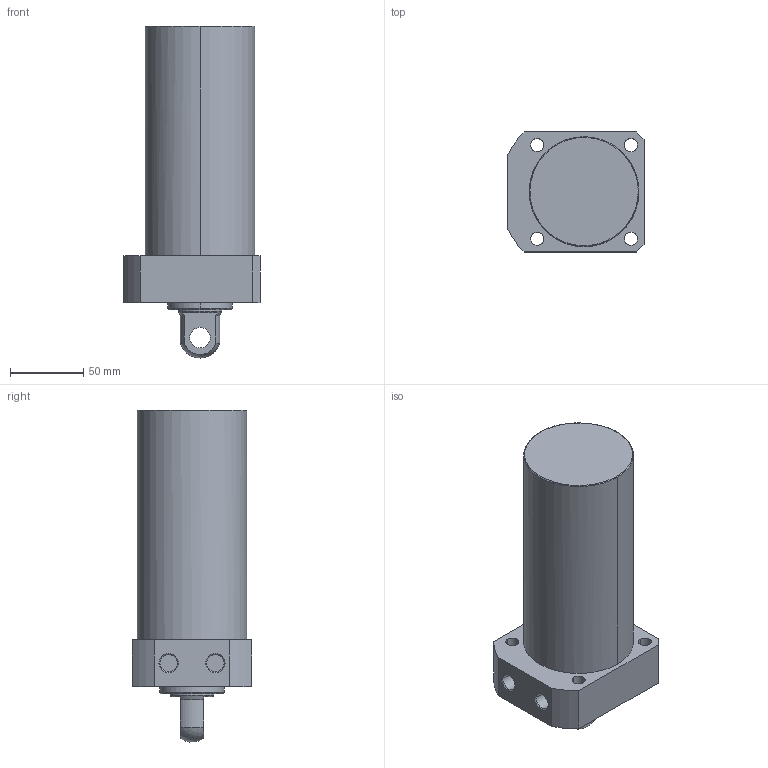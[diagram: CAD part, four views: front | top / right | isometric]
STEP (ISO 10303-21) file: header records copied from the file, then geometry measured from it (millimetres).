
FILE_DESCRIPTION((' '),'2;1');
FILE_NAME( 'TLLR-075CP-120.STEP.stp', '2025-10-24T16:35:16', (' '), ('--- Datakit www.datakit.com---'), ' Datakit CrossCadWare V2024.1 Dec 21 2023', 'Mastercam 2025', ' ');
FILE_SCHEMA(('AUTOMOTIVE_DESIGN { 1 0 10303 214 1 1 1 1 }'));
Length unit declared in the file: millimetre
Products named in the file (1): TLLR-075CP-120
Bounding box: 93 x 82 x 226.9 mm (x, y, z)
Volume: 937054.8 mm3; surface area: 70230.8 mm2
Topology: 1 solids, 1 shells, 57 faces, 164 edges, 116 vertices
Faces by surface type: cylinder 28, plane 18, cone 8, torus 2, sphere 1
Entity records: 2006 total; most frequent: DIRECTION 378, CARTESIAN_POINT 350, ORIENTED_EDGE 328, EDGE_CURVE 164, AXIS2_PLACEMENT_3D 160, VERTEX_POINT 116, CIRCLE 102, EDGE_LOOP 74
